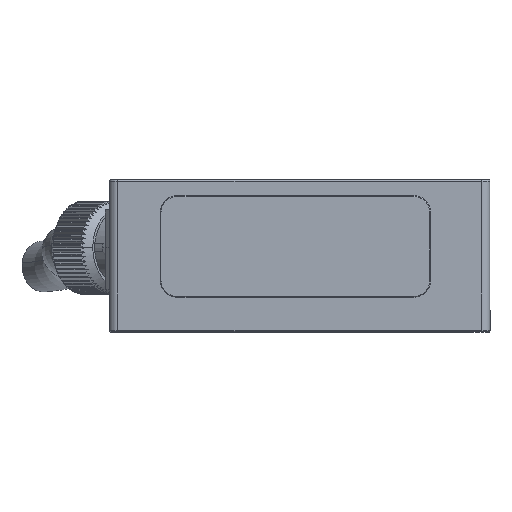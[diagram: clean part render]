
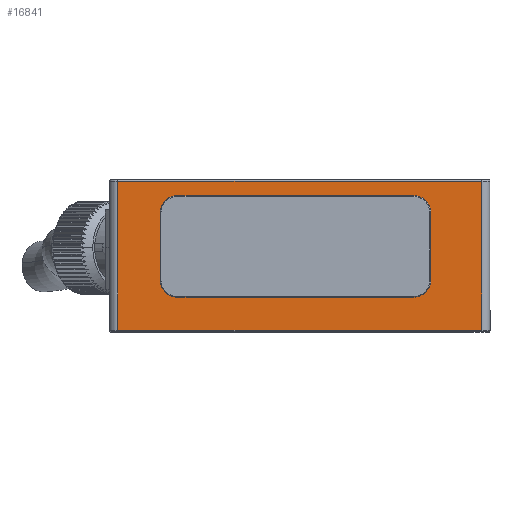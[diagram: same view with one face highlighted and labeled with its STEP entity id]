
A CAD part, top view. The second image highlights one B-rep face of the part: STEP entity #16841.
In plain terms, the highlighted planar face has unit normal (0, 0, 1).
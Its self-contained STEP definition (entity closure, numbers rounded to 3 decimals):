
#244 = LINE ( 'NONE', #11874, #20302 ) ;
#435 = ORIENTED_EDGE ( 'NONE', *, *, #24385, .T. ) ;
#633 = CARTESIAN_POINT ( 'NONE',  ( 8., 4.1, 0. ) ) ;
#1066 = DIRECTION ( 'NONE',  ( 0., -1., 0. ) ) ;
#1414 = DIRECTION ( 'NONE',  ( -1., 0., 0. ) ) ;
#1467 = CARTESIAN_POINT ( 'NONE',  ( 44., 0.2, 0. ) ) ;
#1605 = VERTEX_POINT ( 'NONE', #22739 ) ;
#1642 = DIRECTION ( 'NONE',  ( 1., 0., 0. ) ) ;
#1812 = EDGE_CURVE ( 'NONE', #19933, #13748, #18034, .T. ) ;
#1947 = VECTOR ( 'NONE', #1414, 1000. ) ;
#1990 = EDGE_CURVE ( 'NONE', #17045, #10787, #10491, .T. ) ;
#2580 = EDGE_CURVE ( 'NONE', #5023, #20997, #10460, .T. ) ;
#2676 = AXIS2_PLACEMENT_3D ( 'NONE', #7977, #21549, #9973 ) ;
#2743 = EDGE_CURVE ( 'NONE', #13748, #5023, #22021, .T. ) ;
#3483 = CARTESIAN_POINT ( 'NONE',  ( 6., 6.1, 0. ) ) ;
#3619 = CARTESIAN_POINT ( 'NONE',  ( 36., 4.1, 0. ) ) ;
#3694 = EDGE_LOOP ( 'NONE', ( #435, #5883, #8143, #24364 ) ) ;
#3997 = CARTESIAN_POINT ( 'NONE',  ( 8., 6.1, 0. ) ) ;
#4753 = CARTESIAN_POINT ( 'NONE',  ( 8., 14.1, 0. ) ) ;
#4813 = AXIS2_PLACEMENT_3D ( 'NONE', #3997, #17583, #5976 ) ;
#4976 = CARTESIAN_POINT ( 'NONE',  ( 38., 14.1, 0. ) ) ;
#5023 = VERTEX_POINT ( 'NONE', #21679 ) ;
#5100 = VECTOR ( 'NONE', #1066, 1000. ) ;
#5230 = LINE ( 'NONE', #23834, #24671 ) ;
#5883 = ORIENTED_EDGE ( 'NONE', *, *, #11097, .T. ) ;
#5976 = DIRECTION ( 'NONE',  ( 1., 0., 0. ) ) ;
#6141 = ORIENTED_EDGE ( 'NONE', *, *, #1990, .F. ) ;
#6243 = VECTOR ( 'NONE', #24426, 1000. ) ;
#6713 = DIRECTION ( 'NONE',  ( 1., 0., 0. ) ) ;
#6851 = CARTESIAN_POINT ( 'NONE',  ( 6., 14.1, 0. ) ) ;
#7818 = EDGE_CURVE ( 'NONE', #1605, #16459, #11915, .T. ) ;
#7977 = CARTESIAN_POINT ( 'NONE',  ( 36., 14.1, 0. ) ) ;
#8055 = CARTESIAN_POINT ( 'NONE',  ( 8., 4.1, 0. ) ) ;
#8143 = ORIENTED_EDGE ( 'NONE', *, *, #22427, .T. ) ;
#8357 = VERTEX_POINT ( 'NONE', #1467 ) ;
#8590 = CARTESIAN_POINT ( 'NONE',  ( 44., 0.2, 0. ) ) ;
#8663 = ORIENTED_EDGE ( 'NONE', *, *, #16932, .F. ) ;
#9402 = AXIS2_PLACEMENT_3D ( 'NONE', #24899, #13283, #1642 ) ;
#9879 = VECTOR ( 'NONE', #15755, 1000. ) ;
#9973 = DIRECTION ( 'NONE',  ( -1., 0., 0. ) ) ;
#10292 = DIRECTION ( 'NONE',  ( 0., -1., 0. ) ) ;
#10300 = LINE ( 'NONE', #6851, #5100 ) ;
#10303 = ORIENTED_EDGE ( 'NONE', *, *, #12608, .F. ) ;
#10460 = CIRCLE ( 'NONE', #17297, 2. ) ;
#10491 = LINE ( 'NONE', #8055, #9879 ) ;
#10787 = VERTEX_POINT ( 'NONE', #3619 ) ;
#10893 = CARTESIAN_POINT ( 'NONE',  ( 1., 17.8, 0. ) ) ;
#11097 = EDGE_CURVE ( 'NONE', #16218, #8357, #19219, .T. ) ;
#11414 = LINE ( 'NONE', #22468, #6243 ) ;
#11527 = DIRECTION ( 'NONE',  ( -1., 0., 0. ) ) ;
#11547 = ORIENTED_EDGE ( 'NONE', *, *, #2580, .F. ) ;
#11874 = CARTESIAN_POINT ( 'NONE',  ( 38., 14.1, 0. ) ) ;
#11915 = LINE ( 'NONE', #15318, #21613 ) ;
#12200 = CIRCLE ( 'NONE', #9402, 2. ) ;
#12205 = CARTESIAN_POINT ( 'NONE',  ( 0., 0., 0. ) ) ;
#12608 = EDGE_CURVE ( 'NONE', #14009, #17045, #18318, .T. ) ;
#13126 = CARTESIAN_POINT ( 'NONE',  ( 8., 16.1, 0. ) ) ;
#13283 = DIRECTION ( 'NONE',  ( 0., 0., 1. ) ) ;
#13561 = DIRECTION ( 'NONE',  ( -1., 0., 0. ) ) ;
#13748 = VERTEX_POINT ( 'NONE', #20173 ) ;
#14009 = VERTEX_POINT ( 'NONE', #3483 ) ;
#14013 = EDGE_CURVE ( 'NONE', #10787, #24126, #12200, .T. ) ;
#14308 = ORIENTED_EDGE ( 'NONE', *, *, #17176, .F. ) ;
#15001 = ORIENTED_EDGE ( 'NONE', *, *, #2743, .F. ) ;
#15318 = CARTESIAN_POINT ( 'NONE',  ( 1., 17.8, 0. ) ) ;
#15745 = CARTESIAN_POINT ( 'NONE',  ( 6., 14.1, 0. ) ) ;
#15755 = DIRECTION ( 'NONE',  ( 1., 0., 0. ) ) ;
#15760 = DIRECTION ( 'NONE',  ( 0., 1., 0. ) ) ;
#16218 = VERTEX_POINT ( 'NONE', #23515 ) ;
#16459 = VERTEX_POINT ( 'NONE', #10893 ) ;
#16841 = ADVANCED_FACE ( 'NONE', ( #17532, #22715 ), #23911, .F. ) ;
#16932 = EDGE_CURVE ( 'NONE', #24126, #19933, #244, .T. ) ;
#17045 = VERTEX_POINT ( 'NONE', #633 ) ;
#17176 = EDGE_CURVE ( 'NONE', #20997, #14009, #10300, .T. ) ;
#17297 = AXIS2_PLACEMENT_3D ( 'NONE', #4753, #18314, #6713 ) ;
#17532 = FACE_BOUND ( 'NONE', #17996, .T. ) ;
#17583 = DIRECTION ( 'NONE',  ( 0., 0., 1. ) ) ;
#17996 = EDGE_LOOP ( 'NONE', ( #15001, #22321, #8663, #22179, #6141, #10303, #14308, #11547 ) ) ;
#18034 = CIRCLE ( 'NONE', #2676, 2. ) ;
#18314 = DIRECTION ( 'NONE',  ( 0., 0., 1. ) ) ;
#18318 = CIRCLE ( 'NONE', #4813, 2. ) ;
#19219 = LINE ( 'NONE', #8590, #23164 ) ;
#19933 = VERTEX_POINT ( 'NONE', #4976 ) ;
#20173 = CARTESIAN_POINT ( 'NONE',  ( 36., 16.1, 0. ) ) ;
#20282 = DIRECTION ( 'NONE',  ( 1., 0., 0. ) ) ;
#20302 = VECTOR ( 'NONE', #15760, 1000. ) ;
#20962 = AXIS2_PLACEMENT_3D ( 'NONE', #12205, #25182, #13561 ) ;
#20997 = VERTEX_POINT ( 'NONE', #15745 ) ;
#21549 = DIRECTION ( 'NONE',  ( 0., 0., 1. ) ) ;
#21613 = VECTOR ( 'NONE', #11527, 1000. ) ;
#21679 = CARTESIAN_POINT ( 'NONE',  ( 8., 16.1, 0. ) ) ;
#22021 = LINE ( 'NONE', #13126, #1947 ) ;
#22179 = ORIENTED_EDGE ( 'NONE', *, *, #14013, .F. ) ;
#22321 = ORIENTED_EDGE ( 'NONE', *, *, #1812, .F. ) ;
#22427 = EDGE_CURVE ( 'NONE', #8357, #1605, #11414, .T. ) ;
#22468 = CARTESIAN_POINT ( 'NONE',  ( 44., 18., 0. ) ) ;
#22715 = FACE_OUTER_BOUND ( 'NONE', #3694, .T. ) ;
#22739 = CARTESIAN_POINT ( 'NONE',  ( 44., 17.8, 0. ) ) ;
#23164 = VECTOR ( 'NONE', #20282, 1000. ) ;
#23515 = CARTESIAN_POINT ( 'NONE',  ( 1., 0.2, 0. ) ) ;
#23834 = CARTESIAN_POINT ( 'NONE',  ( 1., 0., 0. ) ) ;
#23911 = PLANE ( 'NONE',  #20962 ) ;
#24126 = VERTEX_POINT ( 'NONE', #24849 ) ;
#24364 = ORIENTED_EDGE ( 'NONE', *, *, #7818, .T. ) ;
#24385 = EDGE_CURVE ( 'NONE', #16459, #16218, #5230, .T. ) ;
#24426 = DIRECTION ( 'NONE',  ( 0., 1., 0. ) ) ;
#24671 = VECTOR ( 'NONE', #10292, 1000. ) ;
#24849 = CARTESIAN_POINT ( 'NONE',  ( 38., 6.1, 0. ) ) ;
#24899 = CARTESIAN_POINT ( 'NONE',  ( 36., 6.1, 0. ) ) ;
#25182 = DIRECTION ( 'NONE',  ( 0., 0., -1. ) ) ;
